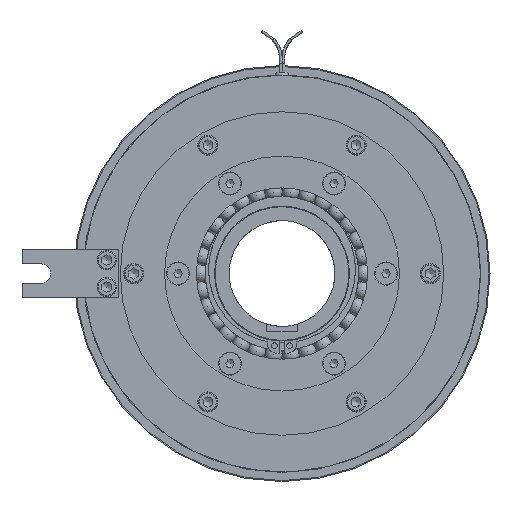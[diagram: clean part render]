
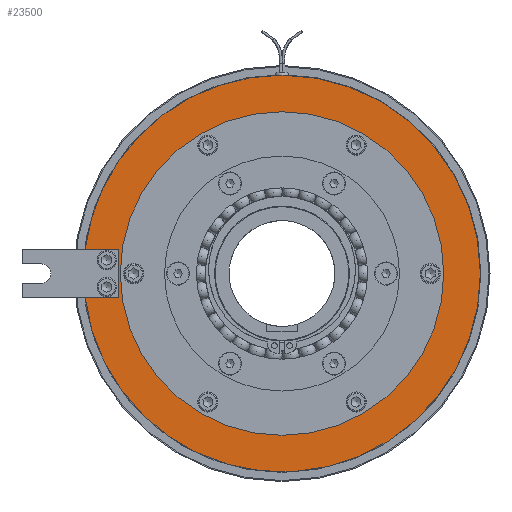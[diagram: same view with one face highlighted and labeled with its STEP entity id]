
A CAD part, left-side view. The second image highlights one B-rep face of the part: STEP entity #23500.
In plain terms, the highlighted planar face has unit normal (-1, 0, 0).
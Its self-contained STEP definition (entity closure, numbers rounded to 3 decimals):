
#751=FACE_BOUND('',#3349,.T.);
#1174=PLANE('',#25733);
#2026=FACE_OUTER_BOUND('',#3348,.T.);
#3348=EDGE_LOOP('',(#17879,#17880,#17881,#17882,#17883,#17884));
#3349=EDGE_LOOP('',(#17885,#17886));
#4721=CIRCLE('',#24131,103.);
#4724=CIRCLE('',#24134,103.);
#5668=CIRCLE('',#25693,84.);
#5669=CIRCLE('',#25694,84.);
#5695=CIRCLE('',#25732,103.);
#7039=LINE('',#38877,#8073);
#7040=LINE('',#38879,#8074);
#7041=LINE('',#38880,#8075);
#8073=VECTOR('',#30898,10.);
#8074=VECTOR('',#30899,10.);
#8075=VECTOR('',#30900,10.);
#8581=VERTEX_POINT('',#34251);
#8582=VERTEX_POINT('',#34253);
#8584=VERTEX_POINT('',#34257);
#8585=VERTEX_POINT('',#34259);
#9656=VERTEX_POINT('',#38784);
#9657=VERTEX_POINT('',#38785);
#9681=VERTEX_POINT('',#38876);
#9682=VERTEX_POINT('',#38878);
#11052=EDGE_CURVE('',#8582,#8581,#4721,.T.);
#11055=EDGE_CURVE('',#8585,#8584,#4724,.T.);
#12697=EDGE_CURVE('',#9656,#9657,#5668,.T.);
#12698=EDGE_CURVE('',#9657,#9656,#5669,.T.);
#12732=EDGE_CURVE('',#8581,#8585,#5695,.T.);
#12733=EDGE_CURVE('',#8584,#9681,#7039,.T.);
#12734=EDGE_CURVE('',#9681,#9682,#7040,.T.);
#12735=EDGE_CURVE('',#9682,#8582,#7041,.T.);
#17879=ORIENTED_EDGE('',*,*,#12733,.T.);
#17880=ORIENTED_EDGE('',*,*,#12734,.T.);
#17881=ORIENTED_EDGE('',*,*,#12735,.T.);
#17882=ORIENTED_EDGE('',*,*,#11052,.T.);
#17883=ORIENTED_EDGE('',*,*,#12732,.T.);
#17884=ORIENTED_EDGE('',*,*,#11055,.T.);
#17885=ORIENTED_EDGE('',*,*,#12697,.T.);
#17886=ORIENTED_EDGE('',*,*,#12698,.T.);
#23500=ADVANCED_FACE('',(#2026,#751),#1174,.T.);
#24131=AXIS2_PLACEMENT_3D('',#34254,#27164,#27165);
#24134=AXIS2_PLACEMENT_3D('',#34260,#27170,#27171);
#25693=AXIS2_PLACEMENT_3D('',#38786,#30809,#30810);
#25694=AXIS2_PLACEMENT_3D('',#38787,#30811,#30812);
#25732=AXIS2_PLACEMENT_3D('',#38874,#30894,#30895);
#25733=AXIS2_PLACEMENT_3D('',#38875,#30896,#30897);
#27164=DIRECTION('center_axis',(-1.,0.,0.));
#27165=DIRECTION('ref_axis',(0.,1.,0.));
#27170=DIRECTION('center_axis',(-1.,0.,0.));
#27171=DIRECTION('ref_axis',(0.,1.,0.));
#30809=DIRECTION('center_axis',(1.,0.,0.));
#30810=DIRECTION('ref_axis',(0.,1.,0.));
#30811=DIRECTION('center_axis',(1.,0.,0.));
#30812=DIRECTION('ref_axis',(0.,1.,0.));
#30894=DIRECTION('center_axis',(-1.,0.,0.));
#30895=DIRECTION('ref_axis',(0.,1.,0.));
#30896=DIRECTION('center_axis',(-1.,0.,0.));
#30897=DIRECTION('ref_axis',(0.,0.,
1.));
#30898=DIRECTION('',(0.,-1.,0.));
#30899=DIRECTION('',(0.,0.,-1.));
#30900=DIRECTION('',(0.,1.,0.));
#34251=CARTESIAN_POINT('',(-15.5,-103.,0.));
#34253=CARTESIAN_POINT('',(-15.5,102.239,-12.5));
#34254=CARTESIAN_POINT('Origin',(-15.5,0.,0.));
#34257=CARTESIAN_POINT('',(-15.5,102.239,12.5));
#34259=CARTESIAN_POINT('',(-15.5,0.,103.));
#34260=CARTESIAN_POINT('Origin',(-15.5,0.,0.));
#38784=CARTESIAN_POINT('',(-15.5,84.,0.));
#38785=CARTESIAN_POINT('',(-15.5,-84.,0.));
#38786=CARTESIAN_POINT('Origin',(-15.5,0.,0.));
#38787=CARTESIAN_POINT('Origin',(-15.5,0.,0.));
#38874=CARTESIAN_POINT('Origin',(-15.5,0.,0.));
#38875=CARTESIAN_POINT('Origin',(-15.5,87.5,0.));
#38876=CARTESIAN_POINT('',(-15.5,85.,12.5));
#38877=CARTESIAN_POINT('',(-15.5,86.25,12.5));
#38878=CARTESIAN_POINT('',(-15.5,85.,-12.5));
#38879=CARTESIAN_POINT('',(-15.5,85.,-6.25));
#38880=CARTESIAN_POINT('',(-15.5,111.25,-12.5));
